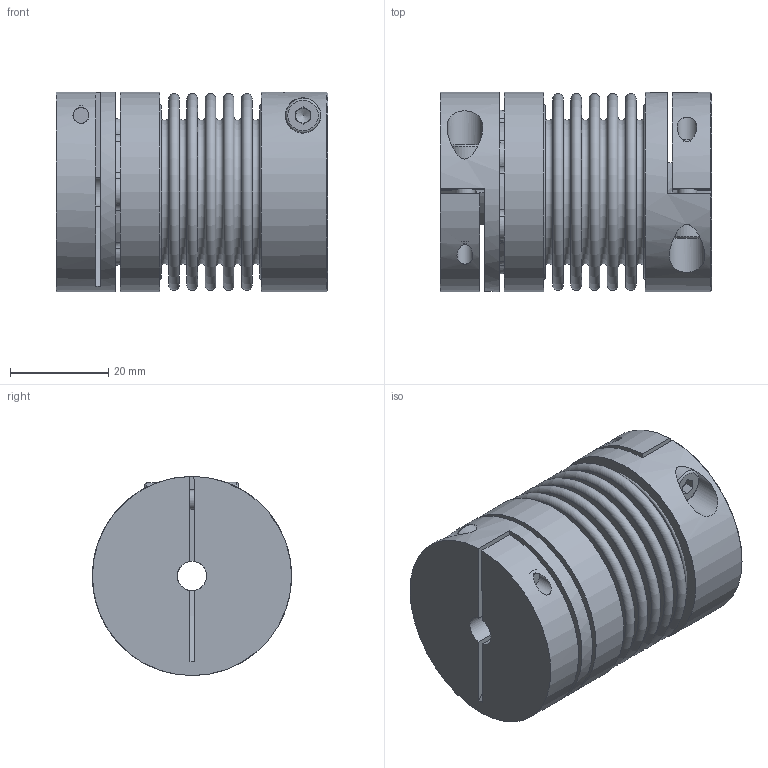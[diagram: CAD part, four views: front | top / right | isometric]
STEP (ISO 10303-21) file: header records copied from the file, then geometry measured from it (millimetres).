
FILE_DESCRIPTION( ( 'KBE1/14 - N7H8 - N14H7 - 98 Sh' ), '1' );
FILE_NAME( 'K:/Konstruktion/Fertigungszeichnungen/Metallbalgkupplung/KB2P/100/KB2P - 100 - 56.stp', '14.12.2015', ( 'KBK-Antriebstechnik' ), ( 'KBK-Antriebstechnik' ), 'PSStep 16.0.42', 'Solid Edge St6', ' ' );
FILE_SCHEMA( ( 'AUTOMOTIVE_DESIGN { 1 0 10303 214 1 1 1 1 }' ) );
Length unit declared in the file: millimetre
Products named in the file (6): Assem1; Stecknabe KB2P-100; BK100_Standard_1; KN10_Standard_8; Socket Head Cap Screw_DIN_DIN 912 M4 x 16 --- 16N; Balgaufnahme KB2P-100 für Step
Assembly tree (6 placements, depth 2):
  Assem1
    Stecknabe KB2P-100
    BK100_Standard_1
    KN10_Standard_8
    Socket Head Cap Screw_DIN_DIN 912 M4 x 16 --- 16N  x2
    Balgaufnahme KB2P-100 für Step
Bounding box: 55.15 x 40.5 x 40.5 mm (x, y, z)
Volume: 43571.9 mm3; surface area: 34481.9 mm2
Topology: 6 solids, 6 shells, 186 faces, 425 edges, 278 vertices
Faces by surface type: plane 77, cone 55, torus 30, cylinder 24
Full cylindrical faces by diameter (mm): 3.242 x1, 4 x3, 4.2 x2, 6 x2, 7 x2, 7.2 x1, 7.3 x1, 35.2 x2, 35.8 x2, 40.5 x3
Entity records: 6170 total; most frequent: CARTESIAN_POINT 1014, DIRECTION 856, ORIENTED_EDGE 642, AXIS2_PLACEMENT_3D 376, EDGE_CURVE 321, EDGE_LOOP 254, VERTEX_POINT 250, FACE_OUTER_BOUND 210
